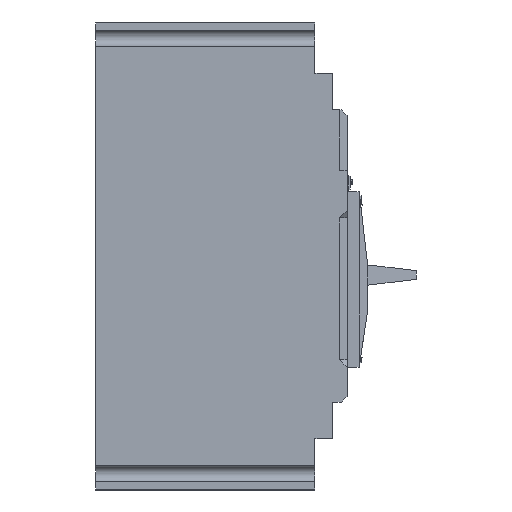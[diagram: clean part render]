
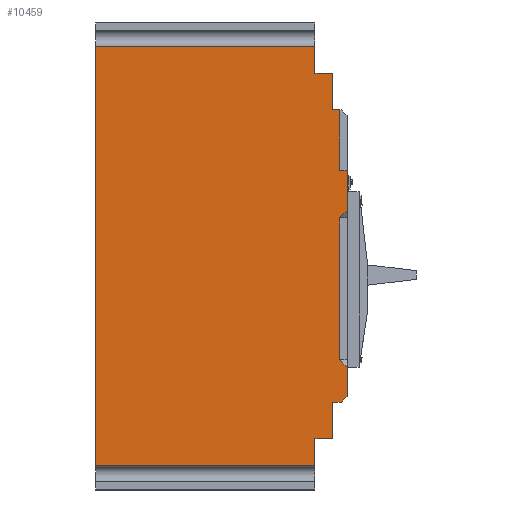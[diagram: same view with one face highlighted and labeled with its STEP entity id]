
A CAD part, left-side view. The second image highlights one B-rep face of the part: STEP entity #10459.
In plain terms, the highlighted planar face has unit normal (-1, 0, 0).
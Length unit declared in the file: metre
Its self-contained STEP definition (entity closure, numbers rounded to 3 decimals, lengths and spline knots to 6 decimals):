
#1183=LINE('',#16132,#2543);
#1193=LINE('',#16160,#2553);
#1194=LINE('',#16163,#2554);
#1197=LINE('',#16168,#2557);
#1263=LINE('',#16396,#2623);
#1301=LINE('',#16512,#2661);
#1304=LINE('',#16517,#2664);
#1307=LINE('',#16523,#2667);
#1311=LINE('',#16530,#2671);
#1314=LINE('',#16537,#2674);
#1316=LINE('',#16540,#2676);
#1386=LINE('',#16686,#2746);
#1390=LINE('',#16693,#2750);
#1392=LINE('',#16697,#2752);
#1393=LINE('',#16700,#2753);
#1395=LINE('',#16703,#2755);
#1396=LINE('',#16706,#2756);
#1397=LINE('',#16708,#2757);
#1398=LINE('',#16709,#2758);
#2543=VECTOR('',#13153,0.006);
#2553=VECTOR('',#13179,0.002828);
#2554=VECTOR('',#13182,0.003);
#2557=VECTOR('',#13187,0.0125);
#2623=VECTOR('',#13415,0.075);
#2661=VECTOR('',#13531,0.009279);
#2664=VECTOR('',#13536,0.006);
#2667=VECTOR('',#13541,0.0125);
#2671=VECTOR('',#13547,0.0025);
#2674=VECTOR('',#13552,0.0025);
#2676=VECTOR('',#13556,0.0207);
#2746=VECTOR('',#13690,0.0138);
#2750=VECTOR('',#13694,0.01);
#2752=VECTOR('',#13698,0.003536);
#2753=VECTOR('',#13701,0.0485);
#2755=VECTOR('',#13705,0.003536);
#2756=VECTOR('',#13708,0.143559);
#2757=VECTOR('',#13709,0.075);
#2758=VECTOR('',#13710,0.009279);
#3241=PLANE('',#11098);
#3856=FACE_OUTER_BOUND('',#4441,.T.);
#4441=EDGE_LOOP('',(#9770,#9771,#9772,#9773,#9774,#9775,#9776,#9777,#9778,
#9779,#9780,#9781,#9782,#9783,#9784,#9785,#9786,#9787,#9788));
#5331=VERTEX_POINT('',#16129);
#5332=VERTEX_POINT('',#16131);
#5340=VERTEX_POINT('',#16154);
#5342=VERTEX_POINT('',#16158);
#5343=VERTEX_POINT('',#16162);
#5424=VERTEX_POINT('',#16394);
#5425=VERTEX_POINT('',#16395);
#5464=VERTEX_POINT('',#16511);
#5465=VERTEX_POINT('',#16516);
#5467=VERTEX_POINT('',#16522);
#5469=VERTEX_POINT('',#16529);
#5471=VERTEX_POINT('',#16534);
#5472=VERTEX_POINT('',#16536);
#5516=VERTEX_POINT('',#16685);
#5519=VERTEX_POINT('',#16691);
#5520=VERTEX_POINT('',#16695);
#5521=VERTEX_POINT('',#16699);
#5522=VERTEX_POINT('',#16705);
#5523=VERTEX_POINT('',#16707);
#6687=EDGE_CURVE('',#5332,#5331,#1183,.T.);
#6701=EDGE_CURVE('',#5340,#5342,#1193,.T.);
#6702=EDGE_CURVE('',#5343,#5340,#1194,.T.);
#6705=EDGE_CURVE('',#5343,#5331,#1197,.T.);
#6812=EDGE_CURVE('',#5424,#5425,#1263,.T.);
#6870=EDGE_CURVE('',#5464,#5425,#1301,.T.);
#6873=EDGE_CURVE('',#5464,#5465,#1304,.T.);
#6876=EDGE_CURVE('',#5465,#5467,#1307,.T.);
#6880=EDGE_CURVE('',#5467,#5469,#1311,.T.);
#6883=EDGE_CURVE('',#5472,#5471,#1314,.T.);
#6885=EDGE_CURVE('',#5471,#5469,#1316,.T.);
#6959=EDGE_CURVE('',#5472,#5516,#1386,.T.);
#6963=EDGE_CURVE('',#5519,#5342,#1390,.T.);
#6965=EDGE_CURVE('',#5520,#5516,#1392,.T.);
#6966=EDGE_CURVE('',#5520,#5521,#1393,.T.);
#6968=EDGE_CURVE('',#5519,#5521,#1395,.T.);
#6969=EDGE_CURVE('',#5522,#5424,#1396,.T.);
#6970=EDGE_CURVE('',#5523,#5522,#1397,.T.);
#6971=EDGE_CURVE('',#5523,#5332,#1398,.T.);
#9770=ORIENTED_EDGE('',*,*,#6966,.F.);
#9771=ORIENTED_EDGE('',*,*,#6965,.T.);
#9772=ORIENTED_EDGE('',*,*,#6959,.F.);
#9773=ORIENTED_EDGE('',*,*,#6883,.T.);
#9774=ORIENTED_EDGE('',*,*,#6885,.T.);
#9775=ORIENTED_EDGE('',*,*,#6880,.F.);
#9776=ORIENTED_EDGE('',*,*,#6876,.F.);
#9777=ORIENTED_EDGE('',*,*,#6873,.F.);
#9778=ORIENTED_EDGE('',*,*,#6870,.T.);
#9779=ORIENTED_EDGE('',*,*,#6812,.F.);
#9780=ORIENTED_EDGE('',*,*,#6969,.F.);
#9781=ORIENTED_EDGE('',*,*,#6970,.F.);
#9782=ORIENTED_EDGE('',*,*,#6971,.T.);
#9783=ORIENTED_EDGE('',*,*,#6687,.T.);
#9784=ORIENTED_EDGE('',*,*,#6705,.F.);
#9785=ORIENTED_EDGE('',*,*,#6702,.T.);
#9786=ORIENTED_EDGE('',*,*,#6701,.T.);
#9787=ORIENTED_EDGE('',*,*,#6963,.F.);
#9788=ORIENTED_EDGE('',*,*,#6968,.T.);
#10459=ADVANCED_FACE('',(#3856),#3241,.T.);
#11098=AXIS2_PLACEMENT_3D('',#16704,#13706,#13707);
#13153=DIRECTION('',(0.,-1.,0.));
#13179=DIRECTION('',(0.,-0.707,0.707));
#13182=DIRECTION('',(0.,-1.,0.));
#13187=DIRECTION('',(0.,0.,-1.));
#13415=DIRECTION('',(0.,-1.,0.));
#13531=DIRECTION('',(0.,0.,1.));
#13536=DIRECTION('',(0.,-1.,0.));
#13541=DIRECTION('',(0.,0.,-1.));
#13547=DIRECTION('',(0.,-1.,0.));
#13552=DIRECTION('',(0.,1.,0.));
#13556=DIRECTION('',(0.,0.,1.));
#13690=DIRECTION('',(0.,0.,-1.));
#13694=DIRECTION('',(0.,0.,-1.));
#13698=DIRECTION('',(0.,-0.707,0.707));
#13701=DIRECTION('',(0.,0.,-1.));
#13705=DIRECTION('',(0.,0.707,0.707));
#13706=DIRECTION('center_axis',(-1.,0.,0.));
#13707=DIRECTION('ref_axis',(0.,0.,1.));
#13708=DIRECTION('',(0.,0.,1.));
#13709=DIRECTION('',(0.,1.,0.));
#13710=DIRECTION('',(0.,0.,1.));
#16129=CARTESIAN_POINT('',(-0.0525,-0.006,-0.0625));
#16131=CARTESIAN_POINT('',(-0.0525,0.,-0.0625));
#16132=CARTESIAN_POINT('',(-0.0525,0.,-0.0625));
#16154=CARTESIAN_POINT('',(-0.0525,-0.009,-0.05));
#16158=CARTESIAN_POINT('',(-0.0525,-0.011,-0.048));
#16160=CARTESIAN_POINT('',(-0.0525,-0.009,-0.05));
#16162=CARTESIAN_POINT('',(-0.0525,-0.006,-0.05));
#16163=CARTESIAN_POINT('',(-0.0525,-0.006,-0.05));
#16168=CARTESIAN_POINT('',(-0.0525,-0.006,-0.05));
#16394=CARTESIAN_POINT('',(-0.0525,0.075,0.071779));
#16395=CARTESIAN_POINT('',(-0.0525,0.,0.071779));
#16396=CARTESIAN_POINT('',(-0.0525,0.075,0.071779));
#16511=CARTESIAN_POINT('',(-0.0525,0.,0.0625));
#16512=CARTESIAN_POINT('',(-0.0525,0.,0.0625));
#16516=CARTESIAN_POINT('',(-0.0525,-0.006,0.0625));
#16517=CARTESIAN_POINT('',(-0.0525,0.,0.0625));
#16522=CARTESIAN_POINT('',(-0.0525,-0.006,0.05));
#16523=CARTESIAN_POINT('',(-0.0525,-0.006,0.0625));
#16529=CARTESIAN_POINT('',(-0.0525,-0.0085,0.05));
#16530=CARTESIAN_POINT('',(-0.0525,-0.006,0.05));
#16534=CARTESIAN_POINT('',(-0.0525,-0.0085,0.0293));
#16536=CARTESIAN_POINT('',(-0.0525,-0.011,0.0293));
#16537=CARTESIAN_POINT('',(-0.0525,-0.011,0.0293));
#16540=CARTESIAN_POINT('',(-0.0525,-0.0085,0.0293));
#16685=CARTESIAN_POINT('',(-0.0525,-0.011,0.0155));
#16686=CARTESIAN_POINT('',(-0.0525,-0.011,0.0293));
#16691=CARTESIAN_POINT('',(-0.0525,-0.011,-0.038));
#16693=CARTESIAN_POINT('',(-0.0525,-0.011,-0.038));
#16695=CARTESIAN_POINT('',(-0.0525,-0.0085,0.013));
#16697=CARTESIAN_POINT('',(-0.0525,-0.0085,0.013));
#16699=CARTESIAN_POINT('',(-0.0525,-0.0085,-0.0355));
#16700=CARTESIAN_POINT('',(-0.0525,-0.0085,0.013));
#16703=CARTESIAN_POINT('',(-0.0525,-0.011,-0.038));
#16704=CARTESIAN_POINT('Origin',(-0.0525,0.075,-0.08));
#16705=CARTESIAN_POINT('',(-0.0525,0.075,-0.071779));
#16706=CARTESIAN_POINT('',(-0.0525,0.075,-0.071779));
#16707=CARTESIAN_POINT('',(-0.0525,0.,-0.071779));
#16708=CARTESIAN_POINT('',(-0.0525,0.,-0.071779));
#16709=CARTESIAN_POINT('',(-0.0525,0.,-0.071779));
